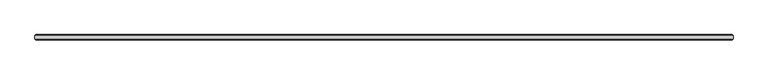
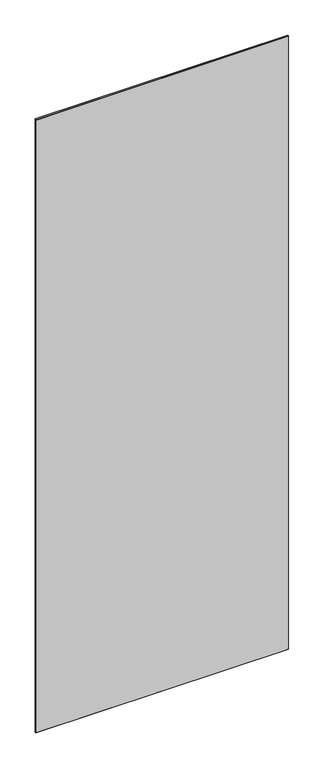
"""IFC4 building model written with IfcOpenShell, lengths in millimetres: plate geometry, 1-AMG-1-Панель одинарный витраж 8, 10 : Смещение 32 Толщина 8mm."""

import ifcopenshell
import ifcopenshell.guid

model = None  # the IFC model being written
_history = None  # IfcOwnerHistory: only IFC2X3 demands one
_inside = {}  # id of a spatial element -> (the spatial element, [elements in it])
_under = {}  # id of a project, library or spatial element -> (it, [spatial elements below it])
_declared = {}  # id of a project -> (the project, [libraries it declares])
_typed = {}  # id of a type object -> (the type object, [elements of that type])
_made_of = {}  # id of a material, layer set ... -> (it, [elements and type objects made of it])


def new_model(schema):
    """Start an empty IFC model of exactly this schema.

    Asked for "IFC4X3", IfcOpenShell would pick the latest addendum, in which some entities
    have other attributes; the version numbers below select the first issue.
    IFC2X3 requires an IfcOwnerHistory on every rooted entity: one is made here for all.
    """
    global model, _history
    if schema == "IFC4X3":
        model = ifcopenshell.file(schema_version=(4, 3, 0, 0))
    else:
        model = ifcopenshell.file(schema=schema)
    _inside.clear()
    _under.clear()
    _declared.clear()
    _typed.clear()
    _made_of.clear()
    _history = None
    if model.schema == "IFC2X3":
        org = make("IfcOrganization", Name="unknown")
        user = make(
            "IfcPersonAndOrganization",
            ThePerson=make("IfcPerson", FamilyName="unknown"),
            TheOrganization=org,
        )
        app = make(
            "IfcApplication",
            ApplicationDeveloper=org,
            Version="unknown",
            ApplicationFullName="unknown",
            ApplicationIdentifier="unknown",
        )
        _history = make(
            "IfcOwnerHistory",
            OwningUser=user,
            OwningApplication=app,
            ChangeAction="ADDED",
            CreationDate=0,
        )
    return model


def make(cls, **values):
    """One entity of the class cls with the attributes given. An attribute that is None is left unset."""
    return model.create_entity(
        cls, **{name: value for name, value in values.items() if value is not None}
    )


def rooted(cls, **values):
    """An entity with a GlobalId (a new one), such as an element, a storey or a relation."""
    return make(cls, GlobalId=ifcopenshell.guid.new(), OwnerHistory=_history, **values)


def si_unit(unit_type, name, prefix=None):
    """IfcSIUnit, for example si_unit("LENGTHUNIT", "METRE", prefix="MILLI")."""
    return make("IfcSIUnit", UnitType=unit_type, Prefix=prefix, Name=name)


def assignment(units):
    """IfcUnitAssignment: the units of a project."""
    return None if units is None else make("IfcUnitAssignment", Units=units)


def point(xyz):
    """IfcCartesianPoint."""
    return None if xyz is None else make("IfcCartesianPoint", Coordinates=xyz)


def direction(xyz):
    """IfcDirection."""
    return None if xyz is None else make("IfcDirection", DirectionRatios=xyz)


def frame(location, z_axis=None, x_axis=None):
    """IfcAxis2Placement3D, a coordinate frame: its origin and axes. An axis left out is left unset."""
    return make(
        "IfcAxis2Placement3D",
        Location=point(location),
        Axis=direction(z_axis),
        RefDirection=direction(x_axis),
    )


def origin():
    """The frame at (0, 0, 0) with its axes left unset."""
    return frame((0.0, 0.0, 0.0))


def place(relative_to, where):
    """IfcLocalPlacement: puts the frame where relative to a parent placement (None: the world)."""
    return make(
        "IfcLocalPlacement", PlacementRelTo=relative_to, RelativePlacement=where
    )


def context(
    kind, dimensions, precision=None, world=None, true_north=None, identifier=None
):
    """IfcGeometricRepresentationContext, for example the 3D "Model" context."""
    return make(
        "IfcGeometricRepresentationContext",
        ContextIdentifier=identifier,
        ContextType=kind,
        CoordinateSpaceDimension=dimensions,
        Precision=precision,
        WorldCoordinateSystem=world,
        TrueNorth=true_north,
    )


def project(units=None, contexts=None):
    """IfcProject with its units and contexts."""
    return rooted(
        "IfcProject",
        Name="project",
        RepresentationContexts=contexts,
        UnitsInContext=assignment(units),
    )


def spatial(cls, under=None, at=None, **own):
    """A site, building, storey or space (cls), placed at a placement, below another one or the project."""
    s = rooted(cls, ObjectPlacement=at, **own)
    if under is not None:
        _under.setdefault(under.id(), (under, []))[1].append(s)
    return s


def faces_of(points, faces, orient=None, outer=None):
    """IfcFace entities. A face is a list of loops; a loop is a list of indices into points, from 0.

    orient and outer hold one flag for each loop. By default every Orientation is true, the
    first loop of a face is its IfcFaceOuterBound and the others are IfcFaceBound.
    """
    made = []
    for i, loops in enumerate(faces):
        bounds = []
        for j, loop in enumerate(loops):
            is_outer = j == 0 if outer is None else outer[i][j]
            bounds.append(
                make(
                    "IfcFaceOuterBound" if is_outer else "IfcFaceBound",
                    Bound=make("IfcPolyLoop", Polygon=[points[k] for k in loop]),
                    Orientation=True if orient is None else orient[i][j],
                )
            )
        made.append(make("IfcFace", Bounds=bounds))
    return made


def faceted_brep(points, faces, orient=None, outer=None, voids=None):
    """IfcFacetedBrep: a solid bounded by flat faces; with voids (closed shells), ...WithVoids."""
    shared = [point(p) for p in points]
    hull = make("IfcClosedShell", CfsFaces=faces_of(shared, faces, orient, outer))
    if voids is None:
        return make("IfcFacetedBrep", Outer=hull)
    return make(
        "IfcFacetedBrepWithVoids",
        Outer=hull,
        Voids=[
            make(cls, CfsFaces=faces_of(shared, fs, o, b)) for cls, fs, o, b in voids
        ],
    )


def shape(context_of_items, identifier, shape_type, items):
    """IfcShapeRepresentation: the items that make up one representation, for example the "Body"."""
    return make(
        "IfcShapeRepresentation",
        ContextOfItems=context_of_items,
        RepresentationIdentifier=identifier,
        RepresentationType=shape_type,
        Items=items,
    )


def source(mapping_origin, context_of_items, identifier, shape_type, items):
    """IfcRepresentationMap: a shape defined once, which mapped items show again and again."""
    return make(
        "IfcRepresentationMap",
        MappingOrigin=mapping_origin,
        MappedRepresentation=shape(context_of_items, identifier, shape_type, items),
    )


def transform(
    local_origin,
    x_axis=None,
    y_axis=None,
    z_axis=None,
    scale=None,
    scale2=None,
    scale3=None,
    uniform=True,
):
    """IfcCartesianTransformationOperator3D, or its non-uniform kind. x_axis, y_axis, z_axis: its Axis1, 2, 3."""
    if uniform:
        return make(
            "IfcCartesianTransformationOperator3D",
            Axis1=direction(x_axis),
            Axis2=direction(y_axis),
            LocalOrigin=point(local_origin),
            Scale=scale,
            Axis3=direction(z_axis),
        )
    return make(
        "IfcCartesianTransformationOperator3DnonUniform",
        Axis1=direction(x_axis),
        Axis2=direction(y_axis),
        LocalOrigin=point(local_origin),
        Scale=scale,
        Axis3=direction(z_axis),
        Scale2=scale2,
        Scale3=scale3,
    )


def mapped(mapping_source, mapping_target):
    """IfcMappedItem: shows the shape of a source again, moved by a transform."""
    return make(
        "IfcMappedItem", MappingSource=mapping_source, MappingTarget=mapping_target
    )


def made_of(thing, what):
    """Note that an element or type object is made of a material, layer set ...; save() writes the relation."""
    if what is not None:
        _made_of.setdefault(what.id(), (what, []))[1].append(thing)
    return thing


def element(
    cls,
    number,
    at=None,
    inside=None,
    cuts=None,
    type_object=None,
    material=None,
    context=None,
    identifier="Body",
    shape_type=None,
    held_by="IfcProductDefinitionShape",
    body=None,
    shapes=None,
    **own,
):
    """One element of the class cls, such as IfcWall. Its Tag is "e" and its number.

    at: its placement. inside: the storey or other place that contains it. cuts: it is an
    opening in that element (IfcRelVoidsElement). A single representation is given by context,
    identifier, shape_type and body (its items); several are given by shapes. held_by: the class
    of the entity that holds the representations. save() writes the other relations.
    """
    e = rooted(cls, Tag="e%d" % number, ObjectPlacement=at, **own)
    if body is not None:
        shapes = [shape(context, identifier, shape_type, body)]
    if shapes is not None:
        e.Representation = make(held_by, Representations=shapes)
    if inside is not None:
        _inside.setdefault(inside.id(), (inside, []))[1].append(e)
    if cuts is not None:
        rooted(
            "IfcRelVoidsElement", RelatingBuildingElement=cuts, RelatedOpeningElement=e
        )
    if type_object is not None:
        _typed.setdefault(type_object.id(), (type_object, []))[1].append(e)
    return made_of(e, material)


def aggregate(whole, parts):
    """IfcRelAggregates: a whole, such as a stair, and the parts it consists of."""
    return rooted("IfcRelAggregates", RelatingObject=whole, RelatedObjects=parts)


def save(model, path):
    """Write the relations noted so far, then the file.

    IfcRelAggregates (storeys below a building ...), IfcRelContainedInSpatialStructure (elements
    in a storey), IfcRelDefinesByType, IfcRelAssociatesMaterial and IfcRelDeclares: one each for
    every whole, place, type object, material and project.
    """
    for whole, parts in _under.values():
        aggregate(whole, parts)
    for where, things in _inside.values():
        rooted(
            "IfcRelContainedInSpatialStructure",
            RelatedElements=things,
            RelatingStructure=where,
        )
    for kind, things in _typed.values():
        rooted("IfcRelDefinesByType", RelatedObjects=things, RelatingType=kind)
    for what, things in _made_of.values():
        rooted("IfcRelAssociatesMaterial", RelatedObjects=things, RelatingMaterial=what)
    for by, libraries in _declared.values():
        rooted("IfcRelDeclares", RelatingContext=by, RelatedDefinitions=libraries)
    model.write(path)


def plate_f4132c37(model_context):
    return source(origin(), model_context, "Body", "Brep", [
        faceted_brep([(532.8511719, 29.5038347, 2722.8), (532.8511719, 34.4961653, 2722.8), (-532.8511719, 34.4961653, 2722.8), (-532.8511719, 29.5038347, 2722.8), (532.8511719, 34.4961653, -7.0), (532.8511719, 29.5038347, -7.0), (-532.8511719, 29.5038347, -7.0), (-532.8511719, 34.4961653, -7.0), (-531.3473372, 36.0, 2721.2961653), (531.3473372, 36.0, 2721.2961653), (531.3473372, 36.0, -5.5039422), (-531.3473372, 36.0, -5.5039422), (531.3473372, 28.0, 2721.2961653), (-531.3473372, 28.0, 2721.2961653), (-531.3473372, 28.0, -5.4961653), (531.3473372, 28.0, -5.4961653)], [[[0, 1, 2, 3]], [[4, 5, 6, 7]], [[8, 9, 10, 11]], [[3, 2, 7, 6]], [[12, 13, 14, 15]], [[1, 0, 5, 4]], [[1, 4, 10, 9]], [[5, 0, 12, 15]], [[7, 2, 8, 11]], [[3, 6, 14, 13]], [[0, 3, 13, 12]], [[2, 1, 9, 8]], [[6, 5, 15, 14]], [[4, 7, 11, 10]]]),
    ])


if __name__ == "__main__":
    model = new_model("IFC4")
    model_context = context("Model", 3, world=origin())
    ifc_project = project(units=[si_unit("LENGTHUNIT", "METRE", prefix="MILLI")], contexts=[model_context])
    site = spatial("IfcSite", under=ifc_project)
    building = spatial("IfcBuilding", under=site)
    placement = place(None, origin())
    plate_shape = plate_f4132c37(model_context)
    element("IfcPlate", 1, ObjectType="1-AMG-1-Панель одинарный витраж 8, 10 : Смещение 32 Толщина 8mm", at=placement, inside=building, context=model_context, shape_type="MappedRepresentation", body=[
        mapped(plate_shape, transform((0.0, 0.0, 0.0), x_axis=(1.0, 0.0, 0.0), y_axis=(0.0, 1.0, 0.0), z_axis=(0.0, 0.0, 1.0))),
    ])
    save(model, "model.ifc")
